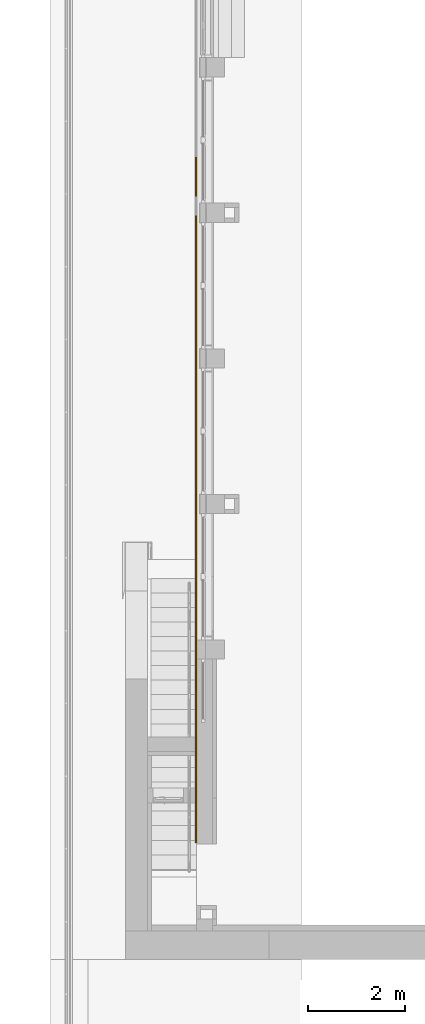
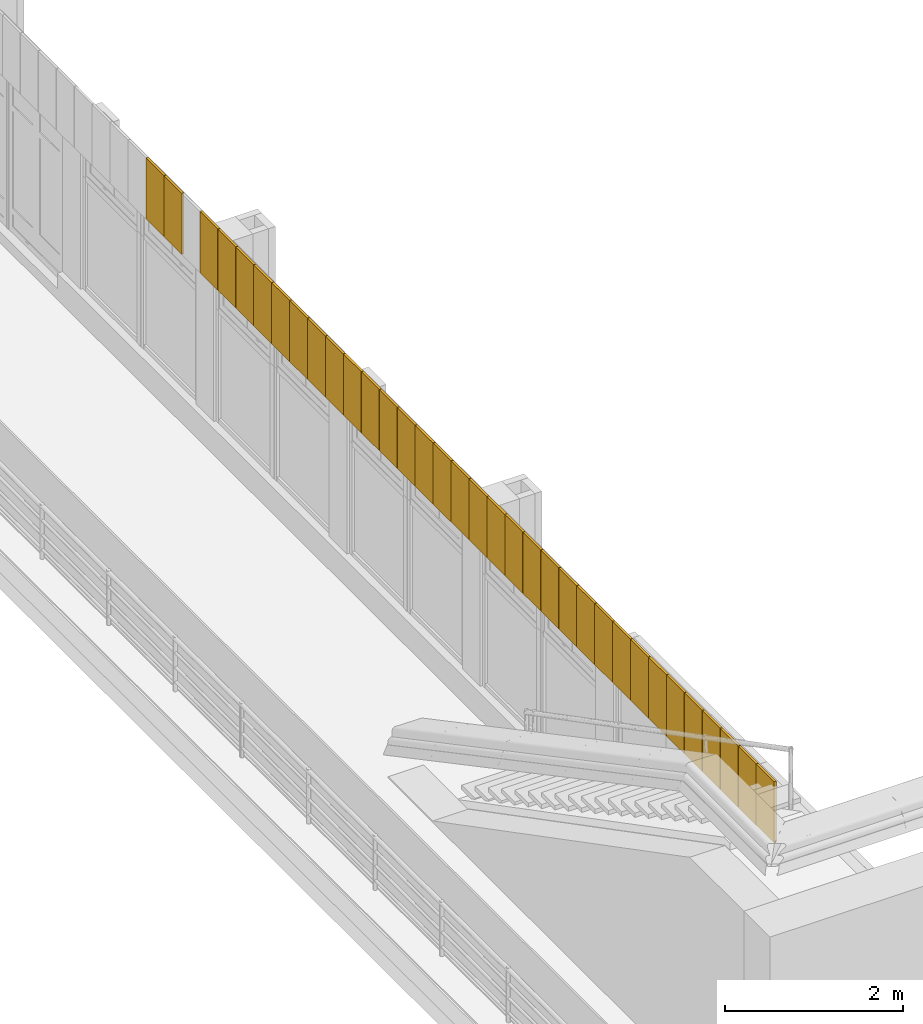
# One storey, part 14 of 16: 34 coverings.
"""IFC2X3 building model written with IfcOpenShell, lengths in millimetres."""

from ifc_helpers import new_model, entity, si_unit, converted_unit, derived_unit, direction, frame, frame_2d, origin, origin_2d_with_axis, place, context, subcontext, project, spatial, rectangle, extrude, material, type_object, element, save


model = new_model("IFC2X3")

# Units and contexts
model_context = context("Model", 3, precision=0.01, world=origin(), true_north=direction((6.123031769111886e-17, 1.0)))
body_context = subcontext(model_context, "Body", "Model", "MODEL_VIEW")
ifc_project = project(units=[si_unit("LENGTHUNIT", "METRE", prefix="MILLI"), si_unit("AREAUNIT", "SQUARE_METRE"), si_unit("VOLUMEUNIT", "CUBIC_METRE"), converted_unit("PLANEANGLEUNIT", "DEGREE", entity("IfcPlaneAngleMeasure", 0.017453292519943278), si_unit("PLANEANGLEUNIT", "RADIAN"), dimensions=[0, 0, 0, 0, 0, 0, 0]), si_unit("MASSUNIT", "GRAM", prefix="KILO"), derived_unit("MASSDENSITYUNIT", [(si_unit("MASSUNIT", "GRAM", prefix="KILO"), 1), (si_unit("LENGTHUNIT", "METRE"), -3)]), derived_unit("IONCONCENTRATIONUNIT", [(si_unit("MASSUNIT", "GRAM", prefix="KILO"), 1), (si_unit("LENGTHUNIT", "METRE"), -3)]), derived_unit("MOMENTOFINERTIAUNIT", [(si_unit("LENGTHUNIT", "METRE"), 4)]), si_unit("TIMEUNIT", "SECOND"), si_unit("FREQUENCYUNIT", "HERTZ"), si_unit("THERMODYNAMICTEMPERATUREUNIT", "DEGREE_CELSIUS"), derived_unit("THERMALTRANSMITTANCEUNIT", [(si_unit("MASSUNIT", "GRAM", prefix="KILO"), 1), (si_unit("THERMODYNAMICTEMPERATUREUNIT", "KELVIN"), -1), (si_unit("TIMEUNIT", "SECOND"), -3)]), derived_unit("THERMALCONDUCTANCEUNIT", [(si_unit("MASSUNIT", "GRAM", prefix="KILO"), 1), (si_unit("THERMODYNAMICTEMPERATUREUNIT", "KELVIN"), -1), (si_unit("TIMEUNIT", "SECOND"), -3), (si_unit("LENGTHUNIT", "METRE"), 1)]), derived_unit("VOLUMETRICFLOWRATEUNIT", [(si_unit("LENGTHUNIT", "METRE", prefix="DECI"), 3), (si_unit("TIMEUNIT", "SECOND"), -1)]), derived_unit("MASSFLOWRATEUNIT", [(si_unit("MASSUNIT", "GRAM", prefix="KILO"), 1), (si_unit("TIMEUNIT", "SECOND"), -1)]), derived_unit("ROTATIONALFREQUENCYUNIT", [(si_unit("TIMEUNIT", "SECOND"), -1)]), si_unit("ELECTRICCURRENTUNIT", "AMPERE"), si_unit("ELECTRICVOLTAGEUNIT", "VOLT"), si_unit("POWERUNIT", "WATT"), si_unit("FORCEUNIT", "NEWTON", prefix="KILO"), si_unit("ILLUMINANCEUNIT", "LUX"), si_unit("LUMINOUSFLUXUNIT", "LUMEN"), si_unit("LUMINOUSINTENSITYUNIT", "CANDELA"), si_unit("ENERGYUNIT", "JOULE"), derived_unit("USERDEFINED", [(si_unit("MASSUNIT", "GRAM", prefix="KILO"), -1), (si_unit("LENGTHUNIT", "METRE"), -2), (si_unit("TIMEUNIT", "SECOND"), 3), (si_unit("LUMINOUSFLUXUNIT", "LUMEN"), 1)]), derived_unit("USERDEFINED", [(si_unit("MASSUNIT", "GRAM", prefix="KILO"), 1), (si_unit("TIMEUNIT", "SECOND"), -3), (si_unit("LENGTHUNIT", "METRE"), 3), (si_unit("ELECTRICCURRENTUNIT", "AMPERE"), -2)]), derived_unit("SOUNDPOWERUNIT", [(si_unit("MASSUNIT", "GRAM", prefix="KILO"), 1), (si_unit("TIMEUNIT", "SECOND"), -3), (si_unit("LENGTHUNIT", "METRE"), 2)]), derived_unit("SOUNDPRESSUREUNIT", [(si_unit("MASSUNIT", "GRAM", prefix="KILO"), 1), (si_unit("LENGTHUNIT", "METRE"), -1), (si_unit("TIMEUNIT", "SECOND"), -2)]), derived_unit("LINEARVELOCITYUNIT", [(si_unit("LENGTHUNIT", "METRE"), 1), (si_unit("TIMEUNIT", "SECOND"), -1)]), si_unit("PRESSUREUNIT", "PASCAL"), derived_unit("USERDEFINED", [(si_unit("MASSUNIT", "GRAM", prefix="KILO"), 1), (si_unit("LENGTHUNIT", "METRE"), -2), (si_unit("TIMEUNIT", "SECOND"), -2)]), derived_unit("LINEARFORCEUNIT", [(si_unit("MASSUNIT", "GRAM", prefix="KILO"), 1), (si_unit("TIMEUNIT", "SECOND"), -2)]), derived_unit("PLANARFORCEUNIT", [(si_unit("MASSUNIT", "GRAM", prefix="KILO"), 1), (si_unit("LENGTHUNIT", "METRE"), -1), (si_unit("TIMEUNIT", "SECOND"), -2)]), derived_unit("SPECIFICHEATCAPACITYUNIT", [(si_unit("THERMODYNAMICTEMPERATUREUNIT", "KELVIN"), -1), (si_unit("LENGTHUNIT", "METRE"), 2), (si_unit("TIMEUNIT", "SECOND"), -2)]), derived_unit("HEATFLUXDENSITYUNIT", [(si_unit("MASSUNIT", "GRAM", prefix="KILO"), 1), (si_unit("TIMEUNIT", "SECOND"), -3)]), derived_unit("HEATINGVALUEUNIT", [(si_unit("LENGTHUNIT", "METRE"), 2), (si_unit("TIMEUNIT", "SECOND"), -2)]), derived_unit("VAPORPERMEABILITYUNIT", [(si_unit("LENGTHUNIT", "METRE"), -1), (si_unit("TIMEUNIT", "SECOND"), 1)]), derived_unit("DYNAMICVISCOSITYUNIT", [(si_unit("MASSUNIT", "GRAM", prefix="KILO"), 1), (si_unit("TIMEUNIT", "SECOND"), -1), (si_unit("LENGTHUNIT", "METRE"), -1)]), derived_unit("THERMALEXPANSIONCOEFFICIENTUNIT", [(si_unit("THERMODYNAMICTEMPERATUREUNIT", "KELVIN"), -1)]), derived_unit("MODULUSOFELASTICITYUNIT", [(si_unit("MASSUNIT", "GRAM", prefix="KILO"), 1), (si_unit("LENGTHUNIT", "METRE"), -1), (si_unit("TIMEUNIT", "SECOND"), -2)]), derived_unit("ISOTHERMALMOISTURECAPACITYUNIT", [(si_unit("MASSUNIT", "GRAM", prefix="KILO"), -1), (si_unit("LENGTHUNIT", "METRE"), 3)]), derived_unit("MOISTUREDIFFUSIVITYUNIT", [(si_unit("TIMEUNIT", "SECOND"), -1), (si_unit("LENGTHUNIT", "METRE"), 2)]), derived_unit("MASSPERLENGTHUNIT", [(si_unit("MASSUNIT", "GRAM", prefix="KILO"), 1), (si_unit("LENGTHUNIT", "METRE"), -1)]), derived_unit("THERMALRESISTANCEUNIT", [(si_unit("MASSUNIT", "GRAM", prefix="KILO"), -1), (si_unit("TIMEUNIT", "SECOND"), 3), (si_unit("THERMODYNAMICTEMPERATUREUNIT", "KELVIN"), 1)]), derived_unit("ACCELERATIONUNIT", [(si_unit("LENGTHUNIT", "METRE"), 1), (si_unit("TIMEUNIT", "SECOND"), -2)]), derived_unit("ANGULARVELOCITYUNIT", [(si_unit("TIMEUNIT", "SECOND"), -1), (si_unit("PLANEANGLEUNIT", "RADIAN"), 1)]), derived_unit("LINEARSTIFFNESSUNIT", [(si_unit("MASSUNIT", "GRAM", prefix="KILO"), 1), (si_unit("TIMEUNIT", "SECOND"), -2)]), derived_unit("WARPINGCONSTANTUNIT", [(si_unit("LENGTHUNIT", "METRE"), 6)]), derived_unit("LINEARMOMENTUNIT", [(si_unit("MASSUNIT", "GRAM", prefix="KILO"), 1), (si_unit("LENGTHUNIT", "METRE"), 1), (si_unit("TIMEUNIT", "SECOND"), -2)]), derived_unit("TORQUEUNIT", [(si_unit("MASSUNIT", "GRAM", prefix="KILO"), 1), (si_unit("LENGTHUNIT", "METRE"), 2), (si_unit("TIMEUNIT", "SECOND"), -2)])], contexts=[model_context])

# Site, building, storey
site_placement = place(None, origin())
site = spatial("IfcSite", under=ifc_project, at=site_placement, Name="Default", CompositionType="ELEMENT")
building_placement = place(site_placement, origin())
building = spatial("IfcBuilding", under=site, at=building_placement, Name="Eesti Rahvusraamatukogu hoone renoveerimise projekteerimistööd", CompositionType="ELEMENT")
storey_placement = place(building_placement, frame((0.0, 0.0, 8250.000000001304)))
storey = spatial("IfcBuildingStorey", under=building, at=storey_placement, Name="3. korrus", CompositionType="ELEMENT", Elevation=8250.000000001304)

# Coverings
ifc_material = material(Name="LUMION_facade new panels")
covering_type = type_object("IfcCoveringType", Name="Fassaadiplaat:FP-01- 400x840", PredefinedType="NOTDEFINED")
covering_1_placement = place(storey_placement, frame((0.0, 0.0, 2600.0)))
element("IfcCovering", 1, at=covering_1_placement, inside=storey, type_object=covering_type, material=ifc_material, Name="Fassaadiplaat:FP-01- 400x840", ObjectType="Fassaadiplaat:FP-01- 400x840", PredefinedType="NOTDEFINED", context=body_context, shape_type="SweptSolid", body=[
    extrude(rectangle(XDim=400.0, YDim=4.999999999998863, at=frame_2d((2.1742607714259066e-12, 0.0), x_axis=(1.0, 0.0))), frame((-33797.49999999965, 22340.0, 0.0), z_axis=(0.0, 0.0, 1.0), x_axis=(0.0, 1.0, 0.0)), (0.0, 0.0, 1.0), 839.9999999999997),
    extrude(rectangle(XDim=400.0, YDim=24.99999999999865, at=frame_2d((2.1742607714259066e-12, 2.1662671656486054e-12), x_axis=(1.0, 0.0))), frame((-33782.49999999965, 22340.0, 0.0), z_axis=(0.0, 0.0, 1.0), x_axis=(0.0, 1.0, 0.0)), (0.0, 0.0, 1.0), 839.9999999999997),
])
covering_2_placement = place(storey_placement, frame((0.0, 0.0, 2600.0)))
element("IfcCovering", 2, at=covering_2_placement, inside=storey, type_object=covering_type, material=ifc_material, Name="Fassaadiplaat:FP-01- 400x840", ObjectType="Fassaadiplaat:FP-01- 400x840", PredefinedType="NOTDEFINED", context=body_context, shape_type="SweptSolid", body=[
    extrude(rectangle(XDim=400.0, YDim=4.999999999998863, at=frame_2d((-2.1742607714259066e-12, 0.0), x_axis=(1.0, 0.0))), frame((-33797.49999999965, 21936.0, 0.0), z_axis=(0.0, 0.0, 1.0), x_axis=(0.0, 1.0, 0.0)), (0.0, 0.0, 1.0), 839.9999999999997),
    extrude(rectangle(XDim=400.0, YDim=24.99999999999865, at=frame_2d((-2.1742607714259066e-12, 2.1662671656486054e-12), x_axis=(1.0, 0.0))), frame((-33782.49999999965, 21936.0, 0.0), z_axis=(0.0, 0.0, 1.0), x_axis=(0.0, 1.0, 0.0)), (0.0, 0.0, 1.0), 839.9999999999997),
])
covering_3_placement = place(storey_placement, frame((0.0, 0.0, 2600.0)))
element("IfcCovering", 3, at=covering_3_placement, inside=storey, type_object=covering_type, material=ifc_material, Name="Fassaadiplaat:FP-01- 400x840", ObjectType="Fassaadiplaat:FP-01- 400x840", PredefinedType="NOTDEFINED", context=body_context, shape_type="SweptSolid", body=[
    extrude(rectangle(XDim=400.0, YDim=4.999999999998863, at=frame_2d((-2.1742607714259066e-12, 0.0), x_axis=(1.0, 0.0))), frame((-33797.49999999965, 21128.0, 0.0), z_axis=(0.0, 0.0, 1.0), x_axis=(0.0, 1.0, 0.0)), (0.0, 0.0, 1.0), 839.9999999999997),
    extrude(rectangle(XDim=400.0, YDim=24.99999999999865, at=frame_2d((-2.1742607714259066e-12, 2.1662671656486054e-12), x_axis=(1.0, 0.0))), frame((-33782.49999999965, 21128.0, 0.0), z_axis=(0.0, 0.0, 1.0), x_axis=(0.0, 1.0, 0.0)), (0.0, 0.0, 1.0), 839.9999999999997),
])
covering_4_placement = place(storey_placement, frame((0.0, 0.0, 2600.0)))
element("IfcCovering", 4, at=covering_4_placement, inside=storey, type_object=covering_type, material=ifc_material, Name="Fassaadiplaat:FP-01- 400x840", ObjectType="Fassaadiplaat:FP-01- 400x840", PredefinedType="NOTDEFINED", context=body_context, shape_type="SweptSolid", body=[
    extrude(rectangle(XDim=400.0, YDim=4.999999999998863, at=frame_2d((2.1742607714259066e-12, 0.0), x_axis=(1.0, 0.0))), frame((-33797.49999999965, 20724.0, 0.0), z_axis=(0.0, 0.0, 1.0), x_axis=(0.0, 1.0, 0.0)), (0.0, 0.0, 1.0), 839.9999999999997),
    extrude(rectangle(XDim=400.0, YDim=24.99999999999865, at=frame_2d((2.1742607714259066e-12, 2.1662671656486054e-12), x_axis=(1.0, 0.0))), frame((-33782.49999999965, 20724.0, 0.0), z_axis=(0.0, 0.0, 1.0), x_axis=(0.0, 1.0, 0.0)), (0.0, 0.0, 1.0), 839.9999999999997),
])
covering_5_placement = place(storey_placement, frame((0.0, 0.0, 2600.0)))
element("IfcCovering", 5, at=covering_5_placement, inside=storey, type_object=covering_type, material=ifc_material, Name="Fassaadiplaat:FP-01- 400x840", ObjectType="Fassaadiplaat:FP-01- 400x840", PredefinedType="NOTDEFINED", context=body_context, shape_type="SweptSolid", body=[
    extrude(rectangle(XDim=400.0, YDim=4.999999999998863, at=frame_2d((-2.1742607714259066e-12, 0.0), x_axis=(1.0, 0.0))), frame((-33797.49999999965, 20320.0, 0.0), z_axis=(0.0, 0.0, 1.0), x_axis=(0.0, 1.0, 0.0)), (0.0, 0.0, 1.0), 839.9999999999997),
    extrude(rectangle(XDim=400.0, YDim=24.99999999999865, at=frame_2d((-2.1742607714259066e-12, 2.1662671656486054e-12), x_axis=(1.0, 0.0))), frame((-33782.49999999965, 20320.0, 0.0), z_axis=(0.0, 0.0, 1.0), x_axis=(0.0, 1.0, 0.0)), (0.0, 0.0, 1.0), 839.9999999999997),
])
covering_6_placement = place(storey_placement, frame((0.0, 0.0, 2600.0)))
element("IfcCovering", 6, at=covering_6_placement, inside=storey, type_object=covering_type, material=ifc_material, Name="Fassaadiplaat:FP-01- 400x840", ObjectType="Fassaadiplaat:FP-01- 400x840", PredefinedType="NOTDEFINED", context=body_context, shape_type="SweptSolid", body=[
    extrude(rectangle(XDim=400.0, YDim=4.999999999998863, at=frame_2d((2.1742607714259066e-12, 0.0), x_axis=(1.0, 0.0))), frame((-33797.49999999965, 19916.0, 0.0), z_axis=(0.0, 0.0, 1.0), x_axis=(0.0, 1.0, 0.0)), (0.0, 0.0, 1.0), 839.9999999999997),
    extrude(rectangle(XDim=400.0, YDim=24.99999999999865, at=frame_2d((2.1742607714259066e-12, 2.1662671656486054e-12), x_axis=(1.0, 0.0))), frame((-33782.49999999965, 19916.0, 0.0), z_axis=(0.0, 0.0, 1.0), x_axis=(0.0, 1.0, 0.0)), (0.0, 0.0, 1.0), 839.9999999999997),
])
covering_7_placement = place(storey_placement, frame((0.0, 0.0, 2600.0)))
element("IfcCovering", 7, at=covering_7_placement, inside=storey, type_object=covering_type, material=ifc_material, Name="Fassaadiplaat:FP-01- 400x840", ObjectType="Fassaadiplaat:FP-01- 400x840", PredefinedType="NOTDEFINED", context=body_context, shape_type="SweptSolid", body=[
    extrude(rectangle(XDim=400.0, YDim=4.999999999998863, at=frame_2d((-2.1742607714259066e-12, 0.0), x_axis=(1.0, 0.0))), frame((-33797.49999999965, 19512.0, 0.0), z_axis=(0.0, 0.0, 1.0), x_axis=(0.0, 1.0, 0.0)), (0.0, 0.0, 1.0), 839.9999999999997),
    extrude(rectangle(XDim=400.0, YDim=24.99999999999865, at=frame_2d((-2.1742607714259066e-12, 2.1662671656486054e-12), x_axis=(1.0, 0.0))), frame((-33782.49999999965, 19512.0, 0.0), z_axis=(0.0, 0.0, 1.0), x_axis=(0.0, 1.0, 0.0)), (0.0, 0.0, 1.0), 839.9999999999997),
])
covering_8_placement = place(storey_placement, frame((0.0, 0.0, 2600.0)))
element("IfcCovering", 8, at=covering_8_placement, inside=storey, type_object=covering_type, material=ifc_material, Name="Fassaadiplaat:FP-01- 400x840", ObjectType="Fassaadiplaat:FP-01- 400x840", PredefinedType="NOTDEFINED", context=body_context, shape_type="SweptSolid", body=[
    extrude(rectangle(XDim=400.0, YDim=4.999999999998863, at=origin_2d_with_axis()), frame((-33797.49999999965, 19108.0, 0.0), z_axis=(0.0, 0.0, 1.0), x_axis=(0.0, 1.0, 0.0)), (0.0, 0.0, 1.0), 839.9999999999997),
    extrude(rectangle(XDim=400.0, YDim=24.99999999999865, at=frame_2d((0.0, 2.1662671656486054e-12), x_axis=(1.0, 0.0))), frame((-33782.49999999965, 19108.0, 0.0), z_axis=(0.0, 0.0, 1.0), x_axis=(0.0, 1.0, 0.0)), (0.0, 0.0, 1.0), 839.9999999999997),
])
covering_9_placement = place(storey_placement, frame((0.0, 0.0, 2600.0)))
element("IfcCovering", 9, at=covering_9_placement, inside=storey, type_object=covering_type, material=ifc_material, Name="Fassaadiplaat:FP-01- 400x840", ObjectType="Fassaadiplaat:FP-01- 400x840", PredefinedType="NOTDEFINED", context=body_context, shape_type="SweptSolid", body=[
    extrude(rectangle(XDim=400.0, YDim=4.999999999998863, at=frame_2d((-2.1742607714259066e-12, 0.0), x_axis=(1.0, 0.0))), frame((-33797.49999999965, 18704.0, 0.0), z_axis=(0.0, 0.0, 1.0), x_axis=(0.0, 1.0, 0.0)), (0.0, 0.0, 1.0), 839.9999999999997),
    extrude(rectangle(XDim=400.0, YDim=24.99999999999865, at=frame_2d((-2.1742607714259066e-12, 2.1662671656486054e-12), x_axis=(1.0, 0.0))), frame((-33782.49999999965, 18704.0, 0.0), z_axis=(0.0, 0.0, 1.0), x_axis=(0.0, 1.0, 0.0)), (0.0, 0.0, 1.0), 839.9999999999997),
])
covering_10_placement = place(storey_placement, frame((0.0, 0.0, 2600.0)))
element("IfcCovering", 10, at=covering_10_placement, inside=storey, type_object=covering_type, material=ifc_material, Name="Fassaadiplaat:FP-01- 400x840", ObjectType="Fassaadiplaat:FP-01- 400x840", PredefinedType="NOTDEFINED", context=body_context, shape_type="SweptSolid", body=[
    extrude(rectangle(XDim=400.0, YDim=4.999999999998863, at=origin_2d_with_axis()), frame((-33797.49999999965, 18300.0, 0.0), z_axis=(0.0, 0.0, 1.0), x_axis=(0.0, 1.0, 0.0)), (0.0, 0.0, 1.0), 839.9999999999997),
    extrude(rectangle(XDim=400.0, YDim=24.99999999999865, at=frame_2d((0.0, 2.1662671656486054e-12), x_axis=(1.0, 0.0))), frame((-33782.49999999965, 18300.0, 0.0), z_axis=(0.0, 0.0, 1.0), x_axis=(0.0, 1.0, 0.0)), (0.0, 0.0, 1.0), 839.9999999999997),
])
covering_11_placement = place(storey_placement, frame((0.0, 0.0, 2600.0)))
element("IfcCovering", 11, at=covering_11_placement, inside=storey, type_object=covering_type, material=ifc_material, Name="Fassaadiplaat:FP-01- 400x840", ObjectType="Fassaadiplaat:FP-01- 400x840", PredefinedType="NOTDEFINED", context=body_context, shape_type="SweptSolid", body=[
    extrude(rectangle(XDim=400.0, YDim=4.999999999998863, at=frame_2d((2.1742607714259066e-12, 0.0), x_axis=(1.0, 0.0))), frame((-33797.49999999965, 17896.0, 0.0), z_axis=(0.0, 0.0, 1.0), x_axis=(0.0, 1.0, 0.0)), (0.0, 0.0, 1.0), 839.9999999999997),
    extrude(rectangle(XDim=400.0, YDim=24.99999999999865, at=frame_2d((2.1742607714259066e-12, 2.1662671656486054e-12), x_axis=(1.0, 0.0))), frame((-33782.49999999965, 17896.0, 0.0), z_axis=(0.0, 0.0, 1.0), x_axis=(0.0, 1.0, 0.0)), (0.0, 0.0, 1.0), 839.9999999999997),
])
covering_12_placement = place(storey_placement, frame((0.0, 0.0, 2600.0)))
element("IfcCovering", 12, at=covering_12_placement, inside=storey, type_object=covering_type, material=ifc_material, Name="Fassaadiplaat:FP-01- 400x840", ObjectType="Fassaadiplaat:FP-01- 400x840", PredefinedType="NOTDEFINED", context=body_context, shape_type="SweptSolid", body=[
    extrude(rectangle(XDim=400.0, YDim=4.999999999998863, at=origin_2d_with_axis()), frame((-33797.49999999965, 17492.0, 0.0), z_axis=(0.0, 0.0, 1.0), x_axis=(0.0, 1.0, 0.0)), (0.0, 0.0, 1.0), 839.9999999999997),
    extrude(rectangle(XDim=400.0, YDim=24.99999999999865, at=frame_2d((0.0, 2.1662671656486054e-12), x_axis=(1.0, 0.0))), frame((-33782.49999999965, 17492.0, 0.0), z_axis=(0.0, 0.0, 1.0), x_axis=(0.0, 1.0, 0.0)), (0.0, 0.0, 1.0), 839.9999999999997),
])
covering_13_placement = place(storey_placement, frame((0.0, 0.0, 2600.0)))
element("IfcCovering", 13, at=covering_13_placement, inside=storey, type_object=covering_type, material=ifc_material, Name="Fassaadiplaat:FP-01- 400x840", ObjectType="Fassaadiplaat:FP-01- 400x840", PredefinedType="NOTDEFINED", context=body_context, shape_type="SweptSolid", body=[
    extrude(rectangle(XDim=400.0, YDim=4.999999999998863, at=frame_2d((-2.1742607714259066e-12, 0.0), x_axis=(1.0, 0.0))), frame((-33797.49999999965, 17088.0, 0.0), z_axis=(0.0, 0.0, 1.0), x_axis=(0.0, 1.0, 0.0)), (0.0, 0.0, 1.0), 839.9999999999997),
    extrude(rectangle(XDim=400.0, YDim=24.99999999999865, at=frame_2d((-2.1742607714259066e-12, 2.1662671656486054e-12), x_axis=(1.0, 0.0))), frame((-33782.49999999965, 17088.0, 0.0), z_axis=(0.0, 0.0, 1.0), x_axis=(0.0, 1.0, 0.0)), (0.0, 0.0, 1.0), 839.9999999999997),
])
covering_14_placement = place(storey_placement, frame((0.0, 0.0, 2600.0)))
element("IfcCovering", 14, at=covering_14_placement, inside=storey, type_object=covering_type, material=ifc_material, Name="Fassaadiplaat:FP-01- 400x840", ObjectType="Fassaadiplaat:FP-01- 400x840", PredefinedType="NOTDEFINED", context=body_context, shape_type="SweptSolid", body=[
    extrude(rectangle(XDim=400.0, YDim=4.999999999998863, at=origin_2d_with_axis()), frame((-33797.49999999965, 16684.0, 0.0), z_axis=(0.0, 0.0, 1.0), x_axis=(0.0, 1.0, 0.0)), (0.0, 0.0, 1.0), 839.9999999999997),
    extrude(rectangle(XDim=400.0, YDim=24.99999999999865, at=frame_2d((0.0, 2.1662671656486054e-12), x_axis=(1.0, 0.0))), frame((-33782.49999999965, 16684.0, 0.0), z_axis=(0.0, 0.0, 1.0), x_axis=(0.0, 1.0, 0.0)), (0.0, 0.0, 1.0), 839.9999999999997),
])
covering_15_placement = place(storey_placement, frame((0.0, 0.0, 2600.0)))
element("IfcCovering", 15, at=covering_15_placement, inside=storey, type_object=covering_type, material=ifc_material, Name="Fassaadiplaat:FP-01- 400x840", ObjectType="Fassaadiplaat:FP-01- 400x840", PredefinedType="NOTDEFINED", context=body_context, shape_type="SweptSolid", body=[
    extrude(rectangle(XDim=400.0, YDim=4.999999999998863, at=frame_2d((2.1742607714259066e-12, 0.0), x_axis=(1.0, 0.0))), frame((-33797.49999999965, 16280.0, 0.0), z_axis=(0.0, 0.0, 1.0), x_axis=(0.0, 1.0, 0.0)), (0.0, 0.0, 1.0), 839.9999999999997),
    extrude(rectangle(XDim=400.0, YDim=24.99999999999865, at=frame_2d((2.1742607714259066e-12, 2.1662671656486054e-12), x_axis=(1.0, 0.0))), frame((-33782.49999999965, 16280.0, 0.0), z_axis=(0.0, 0.0, 1.0), x_axis=(0.0, 1.0, 0.0)), (0.0, 0.0, 1.0), 839.9999999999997),
])
covering_16_placement = place(storey_placement, frame((0.0, 0.0, 2600.0)))
element("IfcCovering", 16, at=covering_16_placement, inside=storey, type_object=covering_type, material=ifc_material, Name="Fassaadiplaat:FP-01- 400x840", ObjectType="Fassaadiplaat:FP-01- 400x840", PredefinedType="NOTDEFINED", context=body_context, shape_type="SweptSolid", body=[
    extrude(rectangle(XDim=400.0, YDim=4.999999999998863, at=origin_2d_with_axis()), frame((-33797.49999999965, 15876.0, 0.0), z_axis=(0.0, 0.0, 1.0), x_axis=(0.0, 1.0, 0.0)), (0.0, 0.0, 1.0), 839.9999999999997),
    extrude(rectangle(XDim=400.0, YDim=24.99999999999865, at=frame_2d((0.0, 2.1662671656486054e-12), x_axis=(1.0, 0.0))), frame((-33782.49999999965, 15876.0, 0.0), z_axis=(0.0, 0.0, 1.0), x_axis=(0.0, 1.0, 0.0)), (0.0, 0.0, 1.0), 839.9999999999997),
])
covering_17_placement = place(storey_placement, frame((0.0, 0.0, 2600.0)))
element("IfcCovering", 17, at=covering_17_placement, inside=storey, type_object=covering_type, material=ifc_material, Name="Fassaadiplaat:FP-01- 400x840", ObjectType="Fassaadiplaat:FP-01- 400x840", PredefinedType="NOTDEFINED", context=body_context, shape_type="SweptSolid", body=[
    extrude(rectangle(XDim=400.0, YDim=4.999999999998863, at=frame_2d((-2.1742607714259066e-12, 0.0), x_axis=(1.0, 0.0))), frame((-33797.49999999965, 15472.0, 0.0), z_axis=(0.0, 0.0, 1.0), x_axis=(0.0, 1.0, 0.0)), (0.0, 0.0, 1.0), 839.9999999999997),
    extrude(rectangle(XDim=400.0, YDim=24.99999999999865, at=frame_2d((-2.1742607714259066e-12, 2.1662671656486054e-12), x_axis=(1.0, 0.0))), frame((-33782.49999999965, 15472.0, 0.0), z_axis=(0.0, 0.0, 1.0), x_axis=(0.0, 1.0, 0.0)), (0.0, 0.0, 1.0), 839.9999999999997),
])
covering_18_placement = place(storey_placement, frame((0.0, 0.0, 2600.0)))
element("IfcCovering", 18, at=covering_18_placement, inside=storey, type_object=covering_type, material=ifc_material, Name="Fassaadiplaat:FP-01- 400x840", ObjectType="Fassaadiplaat:FP-01- 400x840", PredefinedType="NOTDEFINED", context=body_context, shape_type="SweptSolid", body=[
    extrude(rectangle(XDim=400.0, YDim=4.999999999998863, at=origin_2d_with_axis()), frame((-33797.49999999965, 15068.0, 0.0), z_axis=(0.0, 0.0, 1.0), x_axis=(0.0, 1.0, 0.0)), (0.0, 0.0, 1.0), 839.9999999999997),
    extrude(rectangle(XDim=400.0, YDim=24.99999999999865, at=frame_2d((0.0, 2.1662671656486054e-12), x_axis=(1.0, 0.0))), frame((-33782.49999999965, 15068.0, 0.0), z_axis=(0.0, 0.0, 1.0), x_axis=(0.0, 1.0, 0.0)), (0.0, 0.0, 1.0), 839.9999999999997),
])
covering_19_placement = place(storey_placement, frame((0.0, 0.0, 2600.0)))
element("IfcCovering", 19, at=covering_19_placement, inside=storey, type_object=covering_type, material=ifc_material, Name="Fassaadiplaat:FP-01- 400x840", ObjectType="Fassaadiplaat:FP-01- 400x840", PredefinedType="NOTDEFINED", context=body_context, shape_type="SweptSolid", body=[
    extrude(rectangle(XDim=400.0, YDim=4.999999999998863, at=frame_2d((2.1742607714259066e-12, 0.0), x_axis=(1.0, 0.0))), frame((-33797.49999999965, 14664.0, 0.0), z_axis=(0.0, 0.0, 1.0), x_axis=(0.0, 1.0, 0.0)), (0.0, 0.0, 1.0), 839.9999999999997),
    extrude(rectangle(XDim=400.0, YDim=24.99999999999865, at=frame_2d((2.1742607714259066e-12, 2.1662671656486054e-12), x_axis=(1.0, 0.0))), frame((-33782.49999999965, 14664.0, 0.0), z_axis=(0.0, 0.0, 1.0), x_axis=(0.0, 1.0, 0.0)), (0.0, 0.0, 1.0), 839.9999999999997),
])
covering_20_placement = place(storey_placement, frame((0.0, 0.0, 2600.0)))
element("IfcCovering", 20, at=covering_20_placement, inside=storey, type_object=covering_type, material=ifc_material, Name="Fassaadiplaat:FP-01- 400x840", ObjectType="Fassaadiplaat:FP-01- 400x840", PredefinedType="NOTDEFINED", context=body_context, shape_type="SweptSolid", body=[
    extrude(rectangle(XDim=400.0, YDim=4.999999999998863, at=origin_2d_with_axis()), frame((-33797.49999999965, 14260.0, 0.0), z_axis=(0.0, 0.0, 1.0), x_axis=(0.0, 1.0, 0.0)), (0.0, 0.0, 1.0), 839.9999999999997),
    extrude(rectangle(XDim=400.0, YDim=24.99999999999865, at=frame_2d((0.0, 2.1662671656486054e-12), x_axis=(1.0, 0.0))), frame((-33782.49999999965, 14260.0, 0.0), z_axis=(0.0, 0.0, 1.0), x_axis=(0.0, 1.0, 0.0)), (0.0, 0.0, 1.0), 839.9999999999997),
])
covering_21_placement = place(storey_placement, frame((0.0, 0.0, 2600.0)))
element("IfcCovering", 21, at=covering_21_placement, inside=storey, type_object=covering_type, material=ifc_material, Name="Fassaadiplaat:FP-01- 400x840", ObjectType="Fassaadiplaat:FP-01- 400x840", PredefinedType="NOTDEFINED", context=body_context, shape_type="SweptSolid", body=[
    extrude(rectangle(XDim=400.0, YDim=4.999999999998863, at=frame_2d((-2.1742607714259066e-12, 0.0), x_axis=(1.0, 0.0))), frame((-33797.49999999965, 13856.0, 0.0), z_axis=(0.0, 0.0, 1.0), x_axis=(0.0, 1.0, 0.0)), (0.0, 0.0, 1.0), 839.9999999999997),
    extrude(rectangle(XDim=400.0, YDim=24.99999999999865, at=frame_2d((-2.1742607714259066e-12, 2.1662671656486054e-12), x_axis=(1.0, 0.0))), frame((-33782.49999999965, 13856.0, 0.0), z_axis=(0.0, 0.0, 1.0), x_axis=(0.0, 1.0, 0.0)), (0.0, 0.0, 1.0), 839.9999999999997),
])
covering_22_placement = place(storey_placement, frame((0.0, 0.0, 2600.0)))
element("IfcCovering", 22, at=covering_22_placement, inside=storey, type_object=covering_type, material=ifc_material, Name="Fassaadiplaat:FP-01- 400x840", ObjectType="Fassaadiplaat:FP-01- 400x840", PredefinedType="NOTDEFINED", context=body_context, shape_type="SweptSolid", body=[
    extrude(rectangle(XDim=400.0, YDim=4.999999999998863, at=origin_2d_with_axis()), frame((-33797.49999999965, 13452.0, 0.0), z_axis=(0.0, 0.0, 1.0), x_axis=(0.0, 1.0, 0.0)), (0.0, 0.0, 1.0), 839.9999999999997),
    extrude(rectangle(XDim=400.0, YDim=24.99999999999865, at=frame_2d((0.0, 2.1662671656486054e-12), x_axis=(1.0, 0.0))), frame((-33782.49999999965, 13452.0, 0.0), z_axis=(0.0, 0.0, 1.0), x_axis=(0.0, 1.0, 0.0)), (0.0, 0.0, 1.0), 839.9999999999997),
])
covering_23_placement = place(storey_placement, frame((0.0, 0.0, 2600.0)))
element("IfcCovering", 23, at=covering_23_placement, inside=storey, type_object=covering_type, material=ifc_material, Name="Fassaadiplaat:FP-01- 400x840", ObjectType="Fassaadiplaat:FP-01- 400x840", PredefinedType="NOTDEFINED", context=body_context, shape_type="SweptSolid", body=[
    extrude(rectangle(XDim=400.0, YDim=4.999999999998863, at=frame_2d((2.1742607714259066e-12, 0.0), x_axis=(1.0, 0.0))), frame((-33797.49999999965, 13048.0, 0.0), z_axis=(0.0, 0.0, 1.0), x_axis=(0.0, 1.0, 0.0)), (0.0, 0.0, 1.0), 839.9999999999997),
    extrude(rectangle(XDim=400.0, YDim=24.99999999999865, at=frame_2d((2.1742607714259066e-12, 2.1662671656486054e-12), x_axis=(1.0, 0.0))), frame((-33782.49999999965, 13048.0, 0.0), z_axis=(0.0, 0.0, 1.0), x_axis=(0.0, 1.0, 0.0)), (0.0, 0.0, 1.0), 839.9999999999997),
])
covering_24_placement = place(storey_placement, frame((0.0, 0.0, 2600.0)))
element("IfcCovering", 24, at=covering_24_placement, inside=storey, type_object=covering_type, material=ifc_material, Name="Fassaadiplaat:FP-01- 400x840", ObjectType="Fassaadiplaat:FP-01- 400x840", PredefinedType="NOTDEFINED", context=body_context, shape_type="SweptSolid", body=[
    extrude(rectangle(XDim=400.0, YDim=4.999999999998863, at=origin_2d_with_axis()), frame((-33797.49999999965, 12644.0, 0.0), z_axis=(0.0, 0.0, 1.0), x_axis=(0.0, 1.0, 0.0)), (0.0, 0.0, 1.0), 839.9999999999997),
    extrude(rectangle(XDim=400.0, YDim=24.99999999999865, at=frame_2d((0.0, 2.1662671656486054e-12), x_axis=(1.0, 0.0))), frame((-33782.49999999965, 12644.0, 0.0), z_axis=(0.0, 0.0, 1.0), x_axis=(0.0, 1.0, 0.0)), (0.0, 0.0, 1.0), 839.9999999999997),
])
covering_25_placement = place(storey_placement, frame((0.0, 0.0, 2600.0)))
element("IfcCovering", 25, at=covering_25_placement, inside=storey, type_object=covering_type, material=ifc_material, Name="Fassaadiplaat:FP-01- 400x840", ObjectType="Fassaadiplaat:FP-01- 400x840", PredefinedType="NOTDEFINED", context=body_context, shape_type="SweptSolid", body=[
    extrude(rectangle(XDim=400.0, YDim=4.999999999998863, at=origin_2d_with_axis()), frame((-33797.49999999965, 12240.0, 0.0), z_axis=(0.0, 0.0, 1.0), x_axis=(0.0, 1.0, 0.0)), (0.0, 0.0, 1.0), 839.9999999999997),
    extrude(rectangle(XDim=400.0, YDim=24.99999999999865, at=frame_2d((0.0, 2.1662671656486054e-12), x_axis=(1.0, 0.0))), frame((-33782.49999999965, 12240.0, 0.0), z_axis=(0.0, 0.0, 1.0), x_axis=(0.0, 1.0, 0.0)), (0.0, 0.0, 1.0), 839.9999999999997),
])
covering_26_placement = place(storey_placement, frame((0.0, 0.0, 2600.0)))
element("IfcCovering", 26, at=covering_26_placement, inside=storey, type_object=covering_type, material=ifc_material, Name="Fassaadiplaat:FP-01- 400x840", ObjectType="Fassaadiplaat:FP-01- 400x840", PredefinedType="NOTDEFINED", context=body_context, shape_type="SweptSolid", body=[
    extrude(rectangle(XDim=400.0, YDim=4.999999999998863, at=origin_2d_with_axis()), frame((-33797.49999999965, 11836.0, 0.0), z_axis=(0.0, 0.0, 1.0), x_axis=(0.0, 1.0, 0.0)), (0.0, 0.0, 1.0), 839.9999999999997),
    extrude(rectangle(XDim=400.0, YDim=24.99999999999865, at=frame_2d((0.0, 2.1662671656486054e-12), x_axis=(1.0, 0.0))), frame((-33782.49999999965, 11836.0, 0.0), z_axis=(0.0, 0.0, 1.0), x_axis=(0.0, 1.0, 0.0)), (0.0, 0.0, 1.0), 839.9999999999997),
])
covering_27_placement = place(storey_placement, frame((0.0, 0.0, 2600.0)))
element("IfcCovering", 27, at=covering_27_placement, inside=storey, type_object=covering_type, material=ifc_material, Name="Fassaadiplaat:FP-01- 400x840", ObjectType="Fassaadiplaat:FP-01- 400x840", PredefinedType="NOTDEFINED", context=body_context, shape_type="SweptSolid", body=[
    extrude(rectangle(XDim=400.0, YDim=4.999999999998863, at=origin_2d_with_axis()), frame((-33797.49999999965, 11432.0, 0.0), z_axis=(0.0, 0.0, 1.0), x_axis=(0.0, 1.0, 0.0)), (0.0, 0.0, 1.0), 839.9999999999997),
    extrude(rectangle(XDim=400.0, YDim=24.99999999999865, at=frame_2d((0.0, 2.1662671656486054e-12), x_axis=(1.0, 0.0))), frame((-33782.49999999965, 11432.0, 0.0), z_axis=(0.0, 0.0, 1.0), x_axis=(0.0, 1.0, 0.0)), (0.0, 0.0, 1.0), 839.9999999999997),
])
covering_28_placement = place(storey_placement, frame((0.0, 0.0, 2600.0)))
element("IfcCovering", 28, at=covering_28_placement, inside=storey, type_object=covering_type, material=ifc_material, Name="Fassaadiplaat:FP-01- 400x840", ObjectType="Fassaadiplaat:FP-01- 400x840", PredefinedType="NOTDEFINED", context=body_context, shape_type="SweptSolid", body=[
    extrude(rectangle(XDim=400.0, YDim=4.999999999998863, at=origin_2d_with_axis()), frame((-33797.49999999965, 11028.0, 0.0), z_axis=(0.0, 0.0, 1.0), x_axis=(0.0, 1.0, 0.0)), (0.0, 0.0, 1.0), 839.9999999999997),
    extrude(rectangle(XDim=400.0, YDim=24.99999999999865, at=frame_2d((0.0, 2.1662671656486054e-12), x_axis=(1.0, 0.0))), frame((-33782.49999999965, 11028.0, 0.0), z_axis=(0.0, 0.0, 1.0), x_axis=(0.0, 1.0, 0.0)), (0.0, 0.0, 1.0), 839.9999999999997),
])
covering_29_placement = place(storey_placement, frame((0.0, 0.0, 2600.0)))
element("IfcCovering", 29, at=covering_29_placement, inside=storey, type_object=covering_type, material=ifc_material, Name="Fassaadiplaat:FP-01- 400x840", ObjectType="Fassaadiplaat:FP-01- 400x840", PredefinedType="NOTDEFINED", context=body_context, shape_type="SweptSolid", body=[
    extrude(rectangle(XDim=400.0, YDim=4.999999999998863, at=origin_2d_with_axis()), frame((-33797.49999999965, 10624.0, 0.0), z_axis=(0.0, 0.0, 1.0), x_axis=(0.0, 1.0, 0.0)), (0.0, 0.0, 1.0), 839.9999999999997),
    extrude(rectangle(XDim=400.0, YDim=24.99999999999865, at=frame_2d((0.0, 2.1662671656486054e-12), x_axis=(1.0, 0.0))), frame((-33782.49999999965, 10624.0, 0.0), z_axis=(0.0, 0.0, 1.0), x_axis=(0.0, 1.0, 0.0)), (0.0, 0.0, 1.0), 839.9999999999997),
])
covering_30_placement = place(storey_placement, frame((0.0, 0.0, 2600.0)))
element("IfcCovering", 30, at=covering_30_placement, inside=storey, type_object=covering_type, material=ifc_material, Name="Fassaadiplaat:FP-01- 400x840", ObjectType="Fassaadiplaat:FP-01- 400x840", PredefinedType="NOTDEFINED", context=body_context, shape_type="SweptSolid", body=[
    extrude(rectangle(XDim=400.0, YDim=4.999999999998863, at=origin_2d_with_axis()), frame((-33797.49999999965, 10220.0, 0.0), z_axis=(0.0, 0.0, 1.0), x_axis=(0.0, 1.0, 0.0)), (0.0, 0.0, 1.0), 839.9999999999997),
    extrude(rectangle(XDim=400.0, YDim=24.99999999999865, at=frame_2d((0.0, 2.1662671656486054e-12), x_axis=(1.0, 0.0))), frame((-33782.49999999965, 10220.0, 0.0), z_axis=(0.0, 0.0, 1.0), x_axis=(0.0, 1.0, 0.0)), (0.0, 0.0, 1.0), 839.9999999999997),
])
covering_31_placement = place(storey_placement, frame((0.0, 0.0, 2600.0)))
element("IfcCovering", 31, at=covering_31_placement, inside=storey, type_object=covering_type, material=ifc_material, Name="Fassaadiplaat:FP-01- 400x840", ObjectType="Fassaadiplaat:FP-01- 400x840", PredefinedType="NOTDEFINED", context=body_context, shape_type="SweptSolid", body=[
    extrude(rectangle(XDim=400.0, YDim=4.999999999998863, at=origin_2d_with_axis()), frame((-33797.49999999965, 9816.0, 0.0), z_axis=(0.0, 0.0, 1.0), x_axis=(0.0, 1.0, 0.0)), (0.0, 0.0, 1.0), 839.9999999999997),
    extrude(rectangle(XDim=400.0, YDim=24.99999999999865, at=frame_2d((0.0, 2.1662671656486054e-12), x_axis=(1.0, 0.0))), frame((-33782.49999999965, 9816.0, 0.0), z_axis=(0.0, 0.0, 1.0), x_axis=(0.0, 1.0, 0.0)), (0.0, 0.0, 1.0), 839.9999999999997),
])
covering_32_placement = place(storey_placement, frame((0.0, 0.0, 2600.0)))
element("IfcCovering", 32, at=covering_32_placement, inside=storey, type_object=covering_type, material=ifc_material, Name="Fassaadiplaat:FP-01- 400x840", ObjectType="Fassaadiplaat:FP-01- 400x840", PredefinedType="NOTDEFINED", context=body_context, shape_type="SweptSolid", body=[
    extrude(rectangle(XDim=400.0, YDim=4.999999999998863, at=origin_2d_with_axis()), frame((-33797.49999999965, 9412.0, 0.0), z_axis=(0.0, 0.0, 1.0), x_axis=(0.0, 1.0, 0.0)), (0.0, 0.0, 1.0), 839.9999999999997),
    extrude(rectangle(XDim=400.0, YDim=24.99999999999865, at=frame_2d((0.0, 2.1662671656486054e-12), x_axis=(1.0, 0.0))), frame((-33782.49999999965, 9412.0, 0.0), z_axis=(0.0, 0.0, 1.0), x_axis=(0.0, 1.0, 0.0)), (0.0, 0.0, 1.0), 839.9999999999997),
])
covering_33_placement = place(storey_placement, frame((0.0, 0.0, 2600.0)))
element("IfcCovering", 33, at=covering_33_placement, inside=storey, type_object=covering_type, material=ifc_material, Name="Fassaadiplaat:FP-01- 400x840", ObjectType="Fassaadiplaat:FP-01- 400x840", PredefinedType="NOTDEFINED", context=body_context, shape_type="SweptSolid", body=[
    extrude(rectangle(XDim=400.0, YDim=4.999999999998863, at=origin_2d_with_axis()), frame((-33797.49999999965, 9008.0, 0.0), z_axis=(0.0, 0.0, 1.0), x_axis=(0.0, 1.0, 0.0)), (0.0, 0.0, 1.0), 839.9999999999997),
    extrude(rectangle(XDim=400.0, YDim=24.99999999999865, at=frame_2d((0.0, 2.1662671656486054e-12), x_axis=(1.0, 0.0))), frame((-33782.49999999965, 9008.0, 0.0), z_axis=(0.0, 0.0, 1.0), x_axis=(0.0, 1.0, 0.0)), (0.0, 0.0, 1.0), 839.9999999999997),
])
covering_34_placement = place(storey_placement, frame((0.0, 0.0, 2600.0)))
element("IfcCovering", 34, at=covering_34_placement, inside=storey, type_object=covering_type, material=ifc_material, Name="Fassaadiplaat:FP-01- 400x840", ObjectType="Fassaadiplaat:FP-01- 400x840", PredefinedType="NOTDEFINED", context=body_context, shape_type="SweptSolid", body=[
    extrude(rectangle(XDim=400.0, YDim=4.999999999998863, at=origin_2d_with_axis()), frame((-33797.49999999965, 8604.0, 0.0), z_axis=(0.0, 0.0, 1.0), x_axis=(0.0, 1.0, 0.0)), (0.0, 0.0, 1.0), 839.9999999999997),
    extrude(rectangle(XDim=400.0, YDim=24.99999999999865, at=frame_2d((0.0, 2.1662671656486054e-12), x_axis=(1.0, 0.0))), frame((-33782.49999999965, 8604.0, 0.0), z_axis=(0.0, 0.0, 1.0), x_axis=(0.0, 1.0, 0.0)), (0.0, 0.0, 1.0), 839.9999999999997),
])

save(model, "model.ifc")
